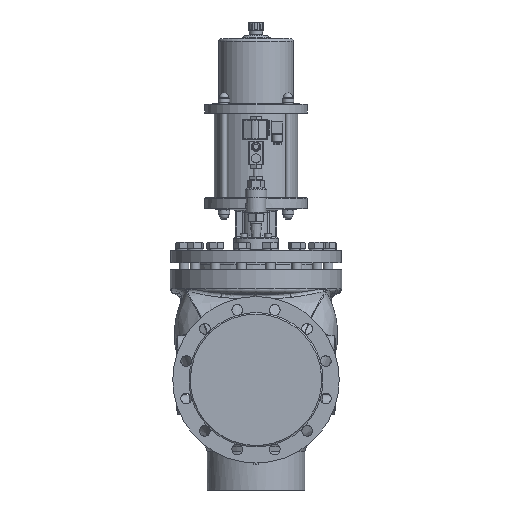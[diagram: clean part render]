
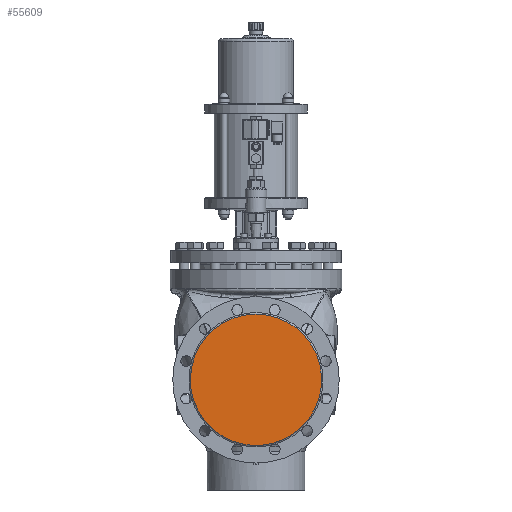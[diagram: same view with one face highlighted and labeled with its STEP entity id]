
A CAD part, left-side view. The second image highlights one B-rep face of the part: STEP entity #55609.
In plain terms, the highlighted planar face has unit normal (-1, 0, 0).
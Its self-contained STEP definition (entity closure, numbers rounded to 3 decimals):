
#55589=CARTESIAN_POINT('',(-300.0,0.0,131.5));
#55590=VERTEX_POINT('',#55589);
#55591=CARTESIAN_POINT('',(-300.0,0.0,-2.5));
#55592=DIRECTION('',(-1.0,0.0,0.0));
#55593=DIRECTION('',(0.0,0.0,1.0));
#55594=AXIS2_PLACEMENT_3D('',#55591,#55592,#55593);
#55595=CIRCLE('',#55594,134.0);
#55596=EDGE_CURVE('',#55590,#55590,#55595,.T.);
#55601=CARTESIAN_POINT('',(-300.,0.0,-2.5));
#55602=DIRECTION('',(-1.0,0.0,0.0));
#55603=DIRECTION('',(0.0,0.0,1.0));
#55604=AXIS2_PLACEMENT_3D('',#55601,#55602,#55603);
#55605=PLANE('',#55604);
#55606=ORIENTED_EDGE('',*,*,#55596,.T.);
#55607=EDGE_LOOP('',(#55606));
#55608=FACE_OUTER_BOUND('',#55607,.T.);
#55609=ADVANCED_FACE('',(#55608),#55605,.T.);
